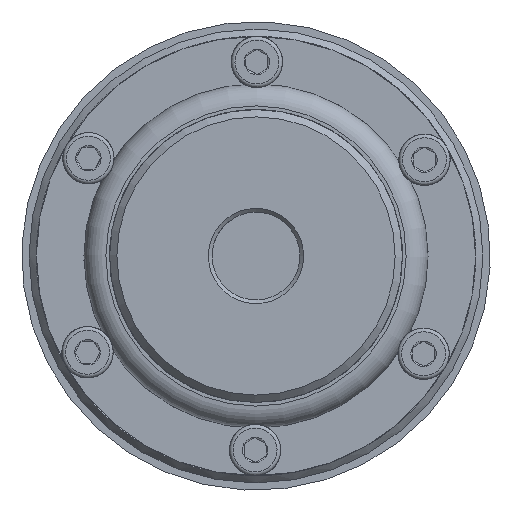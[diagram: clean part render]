
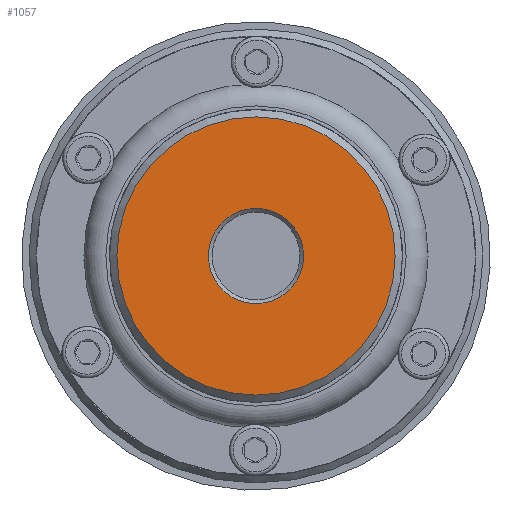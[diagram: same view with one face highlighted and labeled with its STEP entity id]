
A CAD part, left-side view. The second image highlights one B-rep face of the part: STEP entity #1057.
In plain terms, the highlighted planar face has unit normal (-1, 0, 0) as drawn and (0, 0, -1) by its records, which use the part's own axes.
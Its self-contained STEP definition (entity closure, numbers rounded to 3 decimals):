
#1057 = ADVANCED_FACE( '', ( #2149, #2150 ), #2151, .T. );
#2149 = FACE_BOUND( '', #3604, .T. );
#2150 = FACE_OUTER_BOUND( '', #3605, .T. );
#2151 = PLANE( '', #3606 );
#3604 = EDGE_LOOP( '', ( #5045 ) );
#3605 = EDGE_LOOP( '', ( #5046 ) );
#3606 = AXIS2_PLACEMENT_3D( '', #5047, #5048, #5049 );
#5045 = ORIENTED_EDGE( '', *, *, #7648, .T. );
#5046 = ORIENTED_EDGE( '', *, *, #7649, .T. );
#5047 = CARTESIAN_POINT( '', ( 0., 0., 0. ) );
#5048 = DIRECTION( '', ( 0., 0., -1. ) );
#5049 = DIRECTION( '', ( -1., 0., 0. ) );
#7648 = EDGE_CURVE( '', #8788, #8788, #8789, .F. );
#7649 = EDGE_CURVE( '', #8790, #8790, #8791, .T. );
#8788 = VERTEX_POINT( '', #10458 );
#8789 = CIRCLE( '', #10459, 6.5 );
#8790 = VERTEX_POINT( '', #10460 );
#8791 = CIRCLE( '', #10461, 19. );
#10458 = CARTESIAN_POINT( '', ( -6.5, 0., 0. ) );
#10459 = AXIS2_PLACEMENT_3D( '', #12648, #12649, #12650 );
#10460 = CARTESIAN_POINT( '', ( -19., 0., 0. ) );
#10461 = AXIS2_PLACEMENT_3D( '', #12651, #12652, #12653 );
#12648 = CARTESIAN_POINT( '', ( 0., 0., 0. ) );
#12649 = DIRECTION( '', ( 0., 0., -1. ) );
#12650 = DIRECTION( '', ( -1., 0., 0. ) );
#12651 = CARTESIAN_POINT( '', ( 0., 0., 0. ) );
#12652 = DIRECTION( '', ( 0., 0., -1. ) );
#12653 = DIRECTION( '', ( -1., 0., 0. ) );
